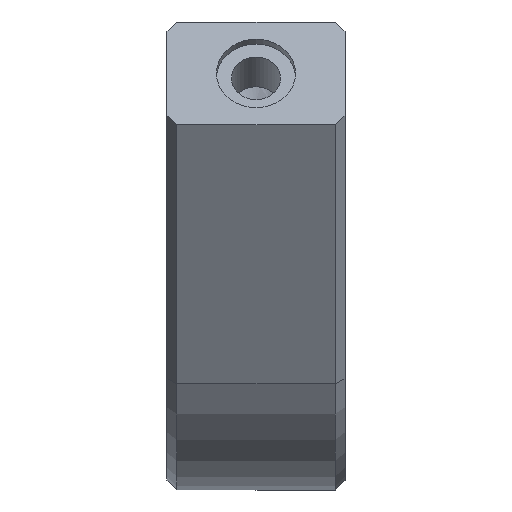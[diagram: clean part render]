
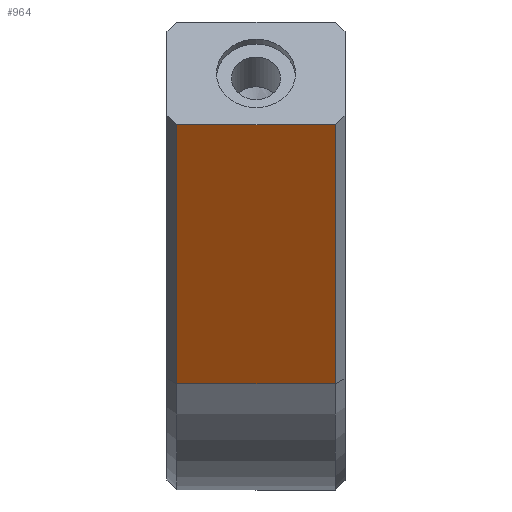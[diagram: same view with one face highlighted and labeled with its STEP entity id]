
A CAD part, top view. The second image highlights one B-rep face of the part: STEP entity #964.
In plain terms, the highlighted planar face has unit normal (0, -0.535, 0.845).
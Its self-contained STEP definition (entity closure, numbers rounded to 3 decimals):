
#588=CARTESIAN_POINT('',(1.0,13.854,35.996));
#589=VERTEX_POINT('',#588);
#596=CARTESIAN_POINT('',(17.0,13.854,35.996));
#597=VERTEX_POINT('',#596);
#598=CARTESIAN_POINT('',(1.0,13.854,35.996));
#599=DIRECTION('',(1.0,0.0,0.0));
#600=VECTOR('',#599,16.0);
#601=LINE('',#598,#600);
#602=EDGE_CURVE('',#589,#597,#601,.T.);
#849=CARTESIAN_POINT('',(17.0,-12.304,19.432));
#850=VERTEX_POINT('',#849);
#873=CARTESIAN_POINT('',(17.0,13.854,35.996));
#874=DIRECTION('',(0.0,-0.845,-0.535));
#875=VECTOR('',#874,30.961);
#876=LINE('',#873,#875);
#877=EDGE_CURVE('',#597,#850,#876,.T.);
#928=CARTESIAN_POINT('',(1.0,-12.304,19.432));
#929=VERTEX_POINT('',#928);
#939=CARTESIAN_POINT('',(1.0,-12.304,19.432));
#940=DIRECTION('',(1.0,0.0,0.0));
#941=VECTOR('',#940,16.0);
#942=LINE('',#939,#941);
#943=EDGE_CURVE('',#929,#850,#942,.T.);
#948=CARTESIAN_POINT('',(0.0,-12.304,19.432));
#949=DIRECTION('',(0.0,-0.535,0.845));
#950=DIRECTION('',(1.0,0.0,0.0));
#951=AXIS2_PLACEMENT_3D('',#948,#949,#950);
#952=PLANE('',#951);
#953=CARTESIAN_POINT('',(1.0,-12.304,19.432));
#954=DIRECTION('',(0.0,0.845,0.535));
#955=VECTOR('',#954,30.961);
#956=LINE('',#953,#955);
#957=EDGE_CURVE('',#929,#589,#956,.T.);
#958=ORIENTED_EDGE('',*,*,#957,.F.);
#959=ORIENTED_EDGE('',*,*,#943,.T.);
#960=ORIENTED_EDGE('',*,*,#877,.F.);
#961=ORIENTED_EDGE('',*,*,#602,.F.);
#962=EDGE_LOOP('',(#958,#959,#960,#961));
#963=FACE_OUTER_BOUND('',#962,.T.);
#964=ADVANCED_FACE('',(#963),#952,.T.);
